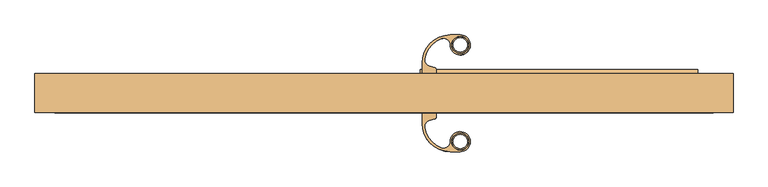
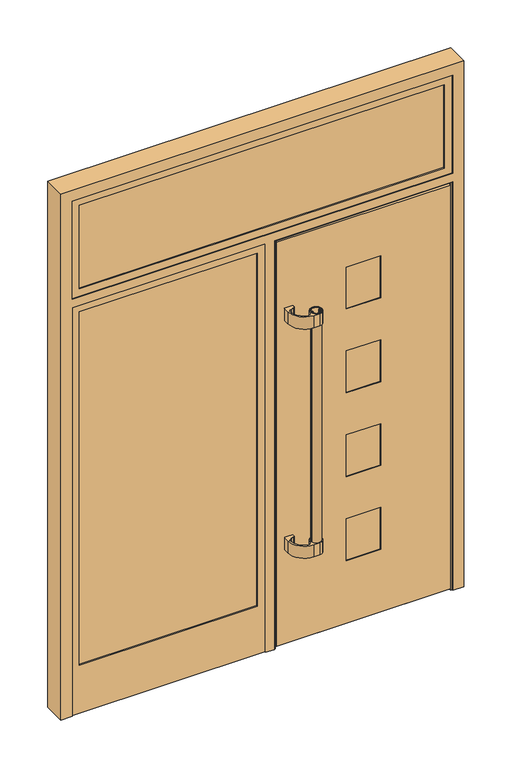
"""IFC4 building model written with IfcOpenShell, lengths in millimetres: door geometry, Jednokrilna vrata s fiksnim poljem i nadsvijetlom : Jednokrilna vrata s fiksnim poljem i nadsvijetlom."""

from ifc_helpers import new_model, si_unit, point, frame, frame_2d, origin, place, context, project, spatial, polyline, circle_curve, trimmed, segment, composite_curve, outline, extrude, faceted_brep, source, transform, mapped, element, save
from ifc_brep_helpers import plane_surface, cylinder_surface, advanced_brep


def door_7b687b59(model_context):
    return source(origin(), model_context, "Body", "SolidModel", [
        extrude(outline(composite_curve([segment(trimmed(circle_curve(frame_2d((172.5992344, 128.9438952)), 19.0), [point((153.5992344, 128.9438952))], [point((191.5992344, 128.9438952))], False, "CARTESIAN"), True, "CONTINUOUS"), segment(trimmed(circle_curve(frame_2d((172.5992344, 128.9438952)), 19.0), [point((191.5992344, 128.9438952))], [point((153.5992344, 128.9438952))], False, "CARTESIAN"), True, "CONTINUOUS")], self_intersect=False), holes=[composite_curve([segment(trimmed(circle_curve(frame_2d((158.1392344, 128.9438952)), 1.55), [point((159.2352499, 130.0399107))], [point((159.2352499, 127.8478797))], True, "CARTESIAN"), True, "CONTINUOUS"), segment(polyline([(159.2352499, 127.8478797), (160.3818511, 127.8478797), (160.3818511, 126.8767304)]), True, "CONTINUOUS"), segment(trimmed(circle_curve(frame_2d((158.1392344, 128.9438952)), 3.05), [point((160.3818511, 126.8767304))], [point((158.1392344, 125.8938952))], False, "CARTESIAN"), True, "CONTINUOUS"), segment(polyline([(158.1392344, 125.8938952), (156.8926275, 125.8938952)]), True, "CONTINUOUS"), segment(trimmed(circle_curve(frame_2d((172.5992344, 128.9438952)), 16.0), [point((156.8926275, 125.8938952))], [point((188.3058413, 125.8938952))], True, "CARTESIAN"), True, "CONTINUOUS"), segment(polyline([(188.3058413, 125.8938952), (187.0992344, 125.8938952)]), True, "CONTINUOUS"), segment(trimmed(circle_curve(frame_2d((187.0992344, 128.9438952)), 3.05), [point((187.0992344, 125.8938952))], [point((184.8566176, 126.8767304))], False, "CARTESIAN"), True, "CONTINUOUS"), segment(polyline([(184.8566176, 126.8767304), (184.8566176, 127.8478797), (186.0032189, 127.8478797)]), True, "CONTINUOUS"), segment(trimmed(circle_curve(frame_2d((187.0992344, 128.9438952)), 1.55), [point((186.0032189, 127.8478797))], [point((186.0032189, 130.0399107))], True, "CARTESIAN"), True, "CONTINUOUS"), segment(polyline([(186.0032189, 130.0399107), (184.8566176, 130.0399107), (184.8566176, 131.0110599)]), True, "CONTINUOUS"), segment(trimmed(circle_curve(frame_2d((187.0992344, 128.9438952)), 3.05), [point((184.8566176, 131.0110599))], [point((187.0992344, 131.9938952))], False, "CARTESIAN"), True, "CONTINUOUS"), segment(polyline([(187.0992344, 131.9938952), (188.3058413, 131.9938952)]), True, "CONTINUOUS"), segment(trimmed(circle_curve(frame_2d((172.5992344, 128.9438952)), 16.0), [point((188.3058413, 131.9938952))], [point((156.8926275, 131.9938952))], True, "CARTESIAN"), True, "CONTINUOUS"), segment(polyline([(156.8926275, 131.9938952), (158.1392344, 131.9938952)]), True, "CONTINUOUS"), segment(trimmed(circle_curve(frame_2d((158.1392344, 128.9438952)), 3.05), [point((158.1392344, 131.9938952))], [point((160.3818511, 131.0110599))], False, "CARTESIAN"), True, "CONTINUOUS"), segment(polyline([(160.3818511, 131.0110599), (160.3818511, 130.0399107), (159.2352499, 130.0399107)]), True, "CONTINUOUS")], self_intersect=False)]), frame((0.0, 0.0, 411.2501761), z_axis=(0.0, 0.0, 1.0), x_axis=(1.0, 0.0, 0.0)), (0.0, 0.0, 1.0), 1000.0),
        extrude(outline(composite_curve([segment(polyline([(91.0523572, 63.4961329), (86.0523572, 63.4961329), (86.0523572, 87.6938952)]), True, "CONTINUOUS"), segment(trimmed(circle_curve(frame_2d((150.0495982, 87.6938952)), 63.997241), [point((86.0523572, 87.6938952))], [point((150.0495982, 151.6911361))], False, "CARTESIAN"), True, "CONTINUOUS"), segment(polyline([(150.0495982, 151.6911361), (172.9535351, 151.6911361)]), True, "CONTINUOUS"), segment(trimmed(circle_curve(frame_2d((172.5350899, 128.7515875)), 22.9433648), [point((172.9535351, 151.6911361))], [point((185.9713489, 147.3490318))], False, "CARTESIAN"), True, "CONTINUOUS"), segment(trimmed(circle_curve(frame_2d((172.6769716, 128.9479692)), 22.7010919), [point((185.9713489, 147.3490318))], [point((187.8219557, 112.0373504))], False, "CARTESIAN"), True, "CONTINUOUS"), segment(trimmed(circle_curve(frame_2d((172.5941758, 129.0404174)), 22.8251959), [point((187.8219557, 112.0373504))], [point((159.2271199, 110.5387586))], False, "CARTESIAN"), True, "CONTINUOUS"), segment(trimmed(circle_curve(frame_2d((172.480867, 128.883584)), 22.631713), [point((159.2271199, 110.5387586))], [point((149.8492344, 128.9438952))], False, "CARTESIAN"), True, "CONTINUOUS"), segment(trimmed(circle_curve(frame_2d((134.8492427, 128.9838687)), 15.0000449), [point((149.8492344, 128.9438952))], [point((129.6813805, 143.0655784))], True, "CARTESIAN"), True, "CONTINUOUS"), segment(trimmed(circle_curve(frame_2d((149.9800199, 87.7545934)), 58.9180773), [point((129.6813805, 143.0655784))], [point((91.9845113, 98.1401991))], True, "CARTESIAN"), True, "CONTINUOUS"), segment(trimmed(circle_curve(frame_2d((106.6993786, 95.2098114)), 15.0038159), [point((91.9845113, 98.1401991))], [point((102.8161053, 80.7172381))], True, "CARTESIAN"), True, "CONTINUOUS"), segment(polyline([(102.8161053, 80.7172381), (114.3464525, 77.6276909)]), True, "CONTINUOUS"), segment(trimmed(circle_curve(frame_2d((113.0523572, 72.7980618)), 5.0), [point((114.3464525, 77.6276909))], [point((118.0523572, 72.7980618))], False, "CARTESIAN"), True, "CONTINUOUS"), segment(polyline([(118.0523572, 72.7980618), (118.0523572, 63.4961329), (91.0523572, 63.4961329)]), True, "CONTINUOUS")], self_intersect=False), holes=[composite_curve([segment(trimmed(circle_curve(frame_2d((172.5992344, 128.9438952)), 19.25), [point((153.3492344, 128.9438952))], [point((191.8492344, 128.9438952))], True, "CARTESIAN"), True, "CONTINUOUS"), segment(trimmed(circle_curve(frame_2d((172.5992344, 128.9438952)), 19.25), [point((191.8492344, 128.9438952))], [point((153.3492344, 128.9438952))], True, "CARTESIAN"), True, "CONTINUOUS")], self_intersect=False)]), frame((0.0, 0.0, 1361.2501761), z_axis=(0.0, 0.0, 1.0), x_axis=(1.0, 0.0, 0.0)), (0.0, 0.0, 1.0), 50.0),
        extrude(outline(composite_curve([segment(polyline([(91.0523572, 63.4961329), (86.0523572, 63.4961329), (86.0523572, 87.6938952)]), True, "CONTINUOUS"), segment(trimmed(circle_curve(frame_2d((150.0495982, 87.6938952)), 63.997241), [point((86.0523572, 87.6938952))], [point((150.0495982, 151.6911361))], False, "CARTESIAN"), True, "CONTINUOUS"), segment(polyline([(150.0495982, 151.6911361), (172.9535351, 151.6911361)]), True, "CONTINUOUS"), segment(trimmed(circle_curve(frame_2d((172.5350899, 128.7515875)), 22.9433648), [point((172.9535351, 151.6911361))], [point((185.9713489, 147.3490318))], False, "CARTESIAN"), True, "CONTINUOUS"), segment(trimmed(circle_curve(frame_2d((172.6769716, 128.9479692)), 22.7010919), [point((185.9713489, 147.3490318))], [point((187.8219557, 112.0373504))], False, "CARTESIAN"), True, "CONTINUOUS"), segment(trimmed(circle_curve(frame_2d((172.5941758, 129.0404174)), 22.8251959), [point((187.8219557, 112.0373504))], [point((159.2271199, 110.5387586))], False, "CARTESIAN"), True, "CONTINUOUS"), segment(trimmed(circle_curve(frame_2d((172.480867, 128.883584)), 22.631713), [point((159.2271199, 110.5387586))], [point((149.8492344, 128.9438952))], False, "CARTESIAN"), True, "CONTINUOUS"), segment(trimmed(circle_curve(frame_2d((134.8492427, 128.9838687)), 15.0000449), [point((149.8492344, 128.9438952))], [point((129.6813805, 143.0655784))], True, "CARTESIAN"), True, "CONTINUOUS"), segment(trimmed(circle_curve(frame_2d((149.9800199, 87.7545934)), 58.9180773), [point((129.6813805, 143.0655784))], [point((91.9845113, 98.1401991))], True, "CARTESIAN"), True, "CONTINUOUS"), segment(trimmed(circle_curve(frame_2d((106.6993786, 95.2098114)), 15.0038159), [point((91.9845113, 98.1401991))], [point((102.8161053, 80.7172381))], True, "CARTESIAN"), True, "CONTINUOUS"), segment(polyline([(102.8161053, 80.7172381), (114.3464525, 77.6276909)]), True, "CONTINUOUS"), segment(trimmed(circle_curve(frame_2d((113.0523572, 72.7980618)), 5.0), [point((114.3464525, 77.6276909))], [point((118.0523572, 72.7980618))], False, "CARTESIAN"), True, "CONTINUOUS"), segment(polyline([(118.0523572, 72.7980618), (118.0523572, 63.4961329), (91.0523572, 63.4961329)]), True, "CONTINUOUS")], self_intersect=False), holes=[composite_curve([segment(trimmed(circle_curve(frame_2d((172.5992344, 128.9438952)), 19.25), [point((153.3492344, 128.9438952))], [point((191.8492344, 128.9438952))], True, "CARTESIAN"), True, "CONTINUOUS"), segment(trimmed(circle_curve(frame_2d((172.5992344, 128.9438952)), 19.25), [point((191.8492344, 128.9438952))], [point((153.3492344, 128.9438952))], True, "CARTESIAN"), True, "CONTINUOUS")], self_intersect=False)]), frame((0.0, 0.0, 411.2501761), z_axis=(0.0, 0.0, 1.0), x_axis=(1.0, 0.0, 0.0)), (0.0, 0.0, 1.0), 50.0),
        extrude(outline(composite_curve([segment(trimmed(circle_curve(frame_2d((172.5992344, -90.4477622)), 19.0), [point((153.5992344, -90.4477622))], [point((191.5992344, -90.4477622))], False, "CARTESIAN"), True, "CONTINUOUS"), segment(trimmed(circle_curve(frame_2d((172.5992344, -90.4477622)), 19.0), [point((191.5992344, -90.4477622))], [point((153.5992344, -90.4477622))], False, "CARTESIAN"), True, "CONTINUOUS")], self_intersect=False), holes=[composite_curve([segment(polyline([(159.2352499, -91.5437777), (160.3818511, -91.5437777), (160.3818511, -92.514927)]), True, "CONTINUOUS"), segment(trimmed(circle_curve(frame_2d((158.1392344, -90.4477622)), 3.05), [point((160.3818511, -92.514927))], [point((158.1392344, -93.4977622))], False, "CARTESIAN"), True, "CONTINUOUS"), segment(polyline([(158.1392344, -93.4977622), (156.8926275, -93.4977622)]), True, "CONTINUOUS"), segment(trimmed(circle_curve(frame_2d((172.5992344, -90.4477622)), 16.0), [point((156.8926275, -93.4977622))], [point((188.3058413, -93.4977622))], True, "CARTESIAN"), True, "CONTINUOUS"), segment(polyline([(188.3058413, -93.4977622), (187.0992344, -93.4977622)]), True, "CONTINUOUS"), segment(trimmed(circle_curve(frame_2d((187.0992344, -90.4477622)), 3.05), [point((187.0992344, -93.4977622))], [point((184.8566176, -92.514927))], False, "CARTESIAN"), True, "CONTINUOUS"), segment(polyline([(184.8566176, -92.514927), (184.8566176, -91.5437777), (186.0032189, -91.5437777)]), True, "CONTINUOUS"), segment(trimmed(circle_curve(frame_2d((187.0992344, -90.4477622)), 1.55), [point((186.0032189, -91.5437777))], [point((186.0032189, -89.3517467))], True, "CARTESIAN"), True, "CONTINUOUS"), segment(polyline([(186.0032189, -89.3517467), (184.8566176, -89.3517467), (184.8566176, -88.3805975)]), True, "CONTINUOUS"), segment(trimmed(circle_curve(frame_2d((187.0992344, -90.4477622)), 3.05), [point((184.8566176, -88.3805975))], [point((187.0992344, -87.3977622))], False, "CARTESIAN"), True, "CONTINUOUS"), segment(polyline([(187.0992344, -87.3977622), (188.3058413, -87.3977622)]), True, "CONTINUOUS"), segment(trimmed(circle_curve(frame_2d((172.5992344, -90.4477622)), 16.0), [point((188.3058413, -87.3977622))], [point((156.8926275, -87.3977622))], True, "CARTESIAN"), True, "CONTINUOUS"), segment(polyline([(156.8926275, -87.3977622), (158.1392344, -87.3977622)]), True, "CONTINUOUS"), segment(trimmed(circle_curve(frame_2d((158.1392344, -90.4477622)), 3.05), [point((158.1392344, -87.3977622))], [point((160.3818511, -88.3805975))], False, "CARTESIAN"), True, "CONTINUOUS"), segment(polyline([(160.3818511, -88.3805975), (160.3818511, -89.3517467), (159.2352499, -89.3517467)]), True, "CONTINUOUS"), segment(trimmed(circle_curve(frame_2d((158.1392344, -90.4477622)), 1.55), [point((159.2352499, -89.3517467))], [point((159.2352499, -91.5437777))], True, "CARTESIAN"), True, "CONTINUOUS")], self_intersect=False)]), frame((0.0, 0.0, 411.2501761), z_axis=(0.0, 0.0, 1.0), x_axis=(1.0, 0.0, 0.0)), (0.0, 0.0, 1.0), 1000.0),
        extrude(outline(composite_curve([segment(polyline([(91.0523572, -25.0), (118.0523572, -25.0), (118.0523572, -34.3019289)]), True, "CONTINUOUS"), segment(trimmed(circle_curve(frame_2d((113.0523572, -34.3019289)), 5.0), [point((118.0523572, -34.3019289))], [point((114.3464525, -39.131558))], False, "CARTESIAN"), True, "CONTINUOUS"), segment(polyline([(114.3464525, -39.131558), (102.8161053, -42.2211052)]), True, "CONTINUOUS"), segment(trimmed(circle_curve(frame_2d((106.6993786, -56.7136785)), 15.0038159), [point((102.8161053, -42.2211052))], [point((91.9845113, -59.6440661))], True, "CARTESIAN"), True, "CONTINUOUS"), segment(trimmed(circle_curve(frame_2d((149.9800199, -49.2584604)), 58.9180773), [point((91.9845113, -59.6440661))], [point((129.6813805, -104.5694455))], True, "CARTESIAN"), True, "CONTINUOUS"), segment(trimmed(circle_curve(frame_2d((134.8492427, -90.4877358)), 15.0000449), [point((129.6813805, -104.5694455))], [point((149.8492344, -90.4477622))], True, "CARTESIAN"), True, "CONTINUOUS"), segment(trimmed(circle_curve(frame_2d((172.480867, -90.3874511)), 22.631713), [point((149.8492344, -90.4477622))], [point((159.2271199, -72.0426256))], False, "CARTESIAN"), True, "CONTINUOUS"), segment(trimmed(circle_curve(frame_2d((172.5941758, -90.5442845)), 22.8251959), [point((159.2271199, -72.0426256))], [point((187.8219557, -73.5412175))], False, "CARTESIAN"), True, "CONTINUOUS"), segment(trimmed(circle_curve(frame_2d((172.6769716, -90.4518363)), 22.7010919), [point((187.8219557, -73.5412175))], [point((185.9713489, -108.8528989))], False, "CARTESIAN"), True, "CONTINUOUS"), segment(trimmed(circle_curve(frame_2d((172.5350899, -90.2554545)), 22.9433648), [point((185.9713489, -108.8528989))], [point((172.9535351, -113.1950032))], False, "CARTESIAN"), True, "CONTINUOUS"), segment(polyline([(172.9535351, -113.1950032), (150.0495982, -113.1950032)]), True, "CONTINUOUS"), segment(trimmed(circle_curve(frame_2d((150.0495982, -49.1977622)), 63.997241), [point((150.0495982, -113.1950032))], [point((86.0523572, -49.1977622))], False, "CARTESIAN"), True, "CONTINUOUS"), segment(polyline([(86.0523572, -49.1977622), (86.0523572, -25.0), (91.0523572, -25.0)]), True, "CONTINUOUS")], self_intersect=False), holes=[composite_curve([segment(trimmed(circle_curve(frame_2d((172.5992344, -90.4477622)), 19.25), [point((153.3492344, -90.4477622))], [point((191.8492344, -90.4477622))], True, "CARTESIAN"), True, "CONTINUOUS"), segment(trimmed(circle_curve(frame_2d((172.5992344, -90.4477622)), 19.25), [point((191.8492344, -90.4477622))], [point((153.3492344, -90.4477622))], True, "CARTESIAN"), True, "CONTINUOUS")], self_intersect=False)]), frame((0.0, 0.0, 1361.2501761), z_axis=(0.0, 0.0, 1.0), x_axis=(1.0, 0.0, 0.0)), (0.0, 0.0, 1.0), 50.0),
        extrude(outline(composite_curve([segment(polyline([(91.0523572, -25.0), (118.0523572, -25.0), (118.0523572, -34.3019289)]), True, "CONTINUOUS"), segment(trimmed(circle_curve(frame_2d((113.0523572, -34.3019289)), 5.0), [point((118.0523572, -34.3019289))], [point((114.3464525, -39.131558))], False, "CARTESIAN"), True, "CONTINUOUS"), segment(polyline([(114.3464525, -39.131558), (102.8161053, -42.2211052)]), True, "CONTINUOUS"), segment(trimmed(circle_curve(frame_2d((106.6993786, -56.7136785)), 15.0038159), [point((102.8161053, -42.2211052))], [point((91.9845113, -59.6440661))], True, "CARTESIAN"), True, "CONTINUOUS"), segment(trimmed(circle_curve(frame_2d((149.9800199, -49.2584604)), 58.9180773), [point((91.9845113, -59.6440661))], [point((129.6813805, -104.5694455))], True, "CARTESIAN"), True, "CONTINUOUS"), segment(trimmed(circle_curve(frame_2d((134.8492427, -90.4877358)), 15.0000449), [point((129.6813805, -104.5694455))], [point((149.8492344, -90.4477622))], True, "CARTESIAN"), True, "CONTINUOUS"), segment(trimmed(circle_curve(frame_2d((172.480867, -90.3874511)), 22.631713), [point((149.8492344, -90.4477622))], [point((159.2271199, -72.0426256))], False, "CARTESIAN"), True, "CONTINUOUS"), segment(trimmed(circle_curve(frame_2d((172.5941758, -90.5442845)), 22.8251959), [point((159.2271199, -72.0426256))], [point((187.8219557, -73.5412175))], False, "CARTESIAN"), True, "CONTINUOUS"), segment(trimmed(circle_curve(frame_2d((172.6769716, -90.4518363)), 22.7010919), [point((187.8219557, -73.5412175))], [point((185.9713489, -108.8528989))], False, "CARTESIAN"), True, "CONTINUOUS"), segment(trimmed(circle_curve(frame_2d((172.5350899, -90.2554545)), 22.9433648), [point((185.9713489, -108.8528989))], [point((172.9535351, -113.1950032))], False, "CARTESIAN"), True, "CONTINUOUS"), segment(polyline([(172.9535351, -113.1950032), (150.0495982, -113.1950032)]), True, "CONTINUOUS"), segment(trimmed(circle_curve(frame_2d((150.0495982, -49.1977622)), 63.997241), [point((150.0495982, -113.1950032))], [point((86.0523572, -49.1977622))], False, "CARTESIAN"), True, "CONTINUOUS"), segment(polyline([(86.0523572, -49.1977622), (86.0523572, -25.0), (91.0523572, -25.0)]), True, "CONTINUOUS")], self_intersect=False), holes=[composite_curve([segment(trimmed(circle_curve(frame_2d((172.5992344, -90.4477622)), 19.25), [point((153.3492344, -90.4477622))], [point((191.8492344, -90.4477622))], True, "CARTESIAN"), True, "CONTINUOUS"), segment(trimmed(circle_curve(frame_2d((172.5992344, -90.4477622)), 19.25), [point((191.8492344, -90.4477622))], [point((153.3492344, -90.4477622))], True, "CARTESIAN"), True, "CONTINUOUS")], self_intersect=False)]), frame((0.0, 0.0, 411.2501761), z_axis=(0.0, 0.0, 1.0), x_axis=(1.0, 0.0, 0.0)), (0.0, 0.0, 1.0), 50.0),
        extrude(outline(polyline([(463.0017189, 59.8961329), (463.0017189, -21.5), (329.2482811, -21.5), (329.2482811, 59.8961329), (463.0017189, 59.8961329)])), frame((0.0, 0.0, 232.9501761), z_axis=(0.0, 0.0, 1.0), x_axis=(1.0, 0.0, 0.0)), (0.0, 0.0, 1.0), 1324.7683548),
        faceted_brep([(710.4978035, 55.0006316, 34.3059674), (710.4978035, 56.2006316, 34.3059674), (710.4978035, 56.2006316, 43.8985869), (710.4978035, 64.4629528, 43.8985869), (710.4978035, 72.0042669, 35.8115176), (710.4978035, 72.0042669, 33.9359674), (710.4978035, 73.5042669, 33.9359674), (710.4978035, 73.5042669, 35.9624995), (710.4978035, 65.0744489, 45.0023726), (710.4978035, 63.4961329, 45.0023726), (710.4978035, 63.4961329, 1668.9979796), (710.4978035, 55.0006316, 1668.9979796), (81.7521965, 55.0006316, 34.3059674), (81.7521965, 56.2006316, 34.3059674), (81.7521965, 56.2006316, 43.8985869), (81.7521965, 64.4629528, 43.8985869), (81.7521965, 72.0042669, 35.8115176), (81.7521965, 72.0042669, 33.9359674), (81.7521965, 73.5042669, 33.9359674), (81.7521965, 73.5042669, 35.9624995), (81.7521965, 65.0744489, 45.0023726), (81.7521965, 63.4961329, 45.0023726), (81.7521965, 63.4961329, 1668.9979796), (463.0017189, 63.4961329, 800.9776761), (329.2482811, 63.4961329, 800.9776761), (329.2482811, 63.4961329, 627.1351761), (463.0017189, 63.4961329, 627.1351761), (463.0017189, 63.4961329, 453.2926761), (329.2482811, 63.4961329, 453.2926761), (329.2482811, 63.4961329, 279.4501761), (463.0017189, 63.4961329, 279.4501761), (463.0017189, 63.4961329, 1496.3476761), (329.2482811, 63.4961329, 1496.3476761), (329.2482811, 63.4961329, 1322.5051761), (463.0017189, 63.4961329, 1322.5051761), (463.0017189, 63.4961329, 1148.6626761), (329.2482811, 63.4961329, 1148.6626761), (329.2482811, 63.4961329, 974.8201761), (463.0017189, 63.4961329, 974.8201761), (724.4976416, 55.0006316, 1682.9978176), (724.4976416, 55.0006316, 31.0025345), (67.7523584, 55.0006316, 31.0025345), (67.7523584, 55.0006316, 1682.9978176), (81.7521965, 55.0006316, 1668.9979796), (655.0017189, -21.5, 1613.501895), (655.0017189, 59.8961329, 1613.501895), (655.0017189, 59.8961329, 100.4984572), (655.0017189, -21.5, 100.4984572), (137.2482811, 59.8961329, 1613.501895), (137.2482811, 59.8961329, 100.4984572), (329.2482811, 59.8961329, 800.9776761), (463.0017189, 59.8961329, 800.9776761), (463.0017189, 59.8961329, 627.1351761), (329.2482811, 59.8961329, 627.1351761), (329.2482811, 59.8961329, 453.2926761), (463.0017189, 59.8961329, 453.2926761), (463.0017189, 59.8961329, 279.4501761), (329.2482811, 59.8961329, 279.4501761), (329.2482811, 59.8961329, 1496.3476761), (463.0017189, 59.8961329, 1496.3476761), (463.0017189, 59.8961329, 1322.5051761), (329.2482811, 59.8961329, 1322.5051761), (329.2482811, 59.8961329, 1148.6626761), (463.0017189, 59.8961329, 1148.6626761), (463.0017189, 59.8961329, 974.8201761), (329.2482811, 59.8961329, 974.8201761), (137.2482811, -21.5, 100.4984572), (137.2482811, -21.5, 1613.501895), (463.0017189, -21.5, 800.9776761), (329.2482811, -21.5, 800.9776761), (329.2482811, -21.5, 627.1351761), (463.0017189, -21.5, 627.1351761), (463.0017189, -21.5, 453.2926761), (329.2482811, -21.5, 453.2926761), (329.2482811, -21.5, 279.4501761), (463.0017189, -21.5, 279.4501761), (463.0017189, -21.5, 1496.3476761), (329.2482811, -21.5, 1496.3476761), (329.2482811, -21.5, 1322.5051761), (463.0017189, -21.5, 1322.5051761), (463.0017189, -21.5, 1148.6626761), (329.2482811, -21.5, 1148.6626761), (329.2482811, -21.5, 974.8201761), (463.0017189, -21.5, 974.8201761), (735.4976428, -13.0033697, 1693.9978188), (735.4976428, -13.0033697, 20.0025333), (56.7523572, -13.0033697, 20.0025333), (56.7523572, -13.0033697, 1693.9978188), (724.4976416, -13.0033697, 31.0025345), (724.4976416, -13.0033697, 1682.9978176), (67.7523584, -13.0033697, 1682.9978176), (67.7523584, -13.0033697, 31.0025345), (735.4976428, -25.0, 1693.9978188), (735.4976428, -25.0, 20.0025333), (56.7523572, -25.0, 1693.9978188), (56.7523572, -25.0, 20.0025333), (329.2482811, -25.0, 800.9776761), (463.0017189, -25.0, 800.9776761), (463.0017189, -25.0, 627.1351761), (329.2482811, -25.0, 627.1351761), (329.2482811, -25.0, 453.2926761), (463.0017189, -25.0, 453.2926761), (463.0017189, -25.0, 279.4501761), (329.2482811, -25.0, 279.4501761), (329.2482811, -25.0, 1496.3476761), (463.0017189, -25.0, 1496.3476761), (463.0017189, -25.0, 1322.5051761), (329.2482811, -25.0, 1322.5051761), (329.2482811, -25.0, 1148.6626761), (463.0017189, -25.0, 1148.6626761), (463.0017189, -25.0, 974.8201761), (329.2482811, -25.0, 974.8201761)], [[[0, 1, 2, 3, 4, 5, 6, 7, 8, 9, 10, 11]], [[12, 13, 1, 0]], [[13, 14, 2, 1]], [[14, 15, 3, 2]], [[15, 16, 4, 3]], [[16, 17, 5, 4]], [[17, 18, 6, 5]], [[18, 19, 7, 6]], [[19, 20, 8, 7]], [[8, 20, 21, 9]], [[10, 9, 21, 22], [23, 24, 25, 26], [27, 28, 29, 30], [31, 32, 33, 34], [35, 36, 37, 38]], [[39, 40, 41, 42], [0, 11, 43, 12]], [[44, 45, 46, 47]], [[46, 45, 48, 49], [50, 51, 52, 53], [54, 55, 56, 57], [58, 59, 60, 61], [62, 63, 64, 65]], [[47, 46, 49, 66]], [[44, 47, 66, 67], [68, 69, 70, 71], [72, 73, 74, 75], [76, 77, 78, 79], [80, 81, 82, 83]], [[84, 85, 86, 87], [88, 89, 90, 91]], [[85, 84, 92, 93]], [[92, 94, 95, 93], [96, 97, 98, 99], [100, 101, 102, 103], [104, 105, 106, 107], [108, 109, 110, 111]], [[86, 85, 93, 95]], [[89, 88, 40, 39]], [[40, 88, 91, 41]], [[66, 49, 48, 67]], [[87, 86, 95, 94]], [[41, 91, 90, 42]], [[43, 22, 21, 20, 19, 18, 17, 16, 15, 14, 13, 12]], [[23, 51, 50, 24]], [[68, 97, 96, 69]], [[51, 23, 26, 52]], [[97, 68, 71, 98]], [[25, 53, 52, 26]], [[70, 99, 98, 71]], [[24, 50, 53, 25]], [[69, 96, 99, 70]], [[27, 55, 54, 28]], [[72, 101, 100, 73]], [[55, 27, 30, 56]], [[101, 72, 75, 102]], [[29, 57, 56, 30]], [[74, 103, 102, 75]], [[28, 54, 57, 29]], [[73, 100, 103, 74]], [[43, 11, 10, 22]], [[45, 44, 67, 48]], [[84, 87, 94, 92]], [[89, 39, 42, 90]], [[31, 59, 58, 32]], [[76, 105, 104, 77]], [[32, 58, 61, 33]], [[77, 104, 107, 78]], [[33, 61, 60, 34]], [[78, 107, 106, 79]], [[59, 31, 34, 60]], [[105, 76, 79, 106]], [[35, 63, 62, 36]], [[80, 109, 108, 81]], [[36, 62, 65, 37]], [[81, 108, 111, 82]], [[37, 65, 64, 38]], [[82, 111, 110, 83]], [[63, 35, 38, 64]], [[109, 80, 83, 110]]]),
        extrude(outline(polyline([(11.749824, -16.0038177), (-745.499939, -16.0038177), (-745.499939, 55.9961823), (11.749824, 55.9961823), (11.749824, -16.0038177)])), frame((0.0, 0.0, 205.989811), z_axis=(0.0, 0.0, 1.0), x_axis=(1.0, 0.0, 0.0)), (0.0, 0.0, 1.0), 1510.0103651),
        advanced_brep(
        [(790.0, 63.4999687, 10.0), (-18.25, 63.4999687, 10.0), (-18.25, 63.4999687, 1674.0003523), (-715.5, 63.4999687, 1674.0001873), (-715.5, 63.4999687, 10.0), (-790.0, 63.4999687, 10.0), (-790.0, 63.4999687, 2190.0), (790.0, 63.4999687, 2190.0), (76.7496477, 63.4999687, 1674.0003523), (76.7496477, 63.4999687, 25.6983046), (715.5, 63.4999687, 25.6983046), (715.5, 63.4999687, 1674.0003523), (715.5, 63.4999687, 2115.5), (-715.5, 63.4999687, 2115.5), (-715.5, 63.4999687, 1768.999835), (715.5, 63.4999687, 1768.9999918), (-790.0, -25.0, 2190.0), (-790.0, -25.0, 10.0), (46.7498239, -21.5038326, 10.0), (46.7498239, -25.0, 10.0), (11.749824, -25.0, 10.0), (11.749824, -21.5038639, 10.0), (-745.499939, -21.5026649, 10.0), (-745.499939, -25.0, 10.0), (-715.5, 62.9999687, 10.0), (-18.25, 62.9999687, 10.0), (790.0, -25.0, 10.0), (745.499939, -25.0, 10.0), (745.499939, -21.5038326, 10.0), (740.499939, -21.5038326, 10.0), (740.499939, -13.2027997, 10.0), (730.9940778, -13.2027997, 10.0), (730.9940778, -12.9953071, 10.0), (51.7498239, -12.9392706, 10.0), (51.7498239, -21.5038326, 10.0), (46.7498239, -25.0, 1704.0001761), (745.499939, -25.0, 1704.0001712), (790.0, -25.0, 2190.0), (-745.499939, -25.0, 1704.0000077), (11.749824, -25.0, 1704.0000908), (-745.499939, -25.0, 2145.499939), (745.499939, -25.0, 2145.499939), (745.499939, -25.0, 1739.000176), (-745.499939, -25.0, 1739.0000077), (-18.25, 62.9999687, 209.9896504), (-715.5, 62.9999687, 209.9896504), (-18.25, 55.9961823, 209.9896504), (-18.25, 55.9961361, 1674.0001791), (-715.5, 55.9961361, 1674.0003523), (-715.5, 55.9961823, 209.9896504), (-715.5, 55.9961361, 2115.5), (-715.5, 55.9961361, 1769.0), (46.7498239, -21.5038326, 1704.0000946), (11.749824, -21.5042582, 1704.0001761), (51.7498239, -21.5025944, 1699.0001761), (740.499939, -21.5025944, 1699.0001761), (745.499939, -21.5025944, 1704.0001712), (-745.499939, -21.5025944, 1704.0000077), (-18.250176, -21.5025944, 1674.0000029), (-18.250176, -21.5025944, 209.9898263), (-715.499939, -21.5025944, 209.9898263), (-715.499939, -21.5025944, 1674.0000029), (745.499939, -21.5025944, 2145.499939), (-745.499939, -21.5025944, 2145.499939), (-745.499939, -21.5025944, 1739.0000077), (745.499939, -21.5025944, 1739.0001711), (-715.499939, -21.5025944, 2115.499939), (715.499939, -21.5025944, 2115.499939), (715.499939, -21.5025944, 1769.000176), (-715.499939, -21.5025944, 1769.000011), (740.499939, -13.2027997, 1699.0001761), (730.9940778, -13.2027997, 1699.0001761), (730.9940778, -12.9392706, 1699.0001761), (730.9940778, -12.9392706, 1689.5001304), (730.9940778, 55.0006899, 1689.5001304), (730.9940778, 55.0044286, 27.2306579), (730.9940778, 48.6457156, 28.3775885), (730.9940778, 28.1552854, 30.02273), (730.9940778, 26.3416807, 29.5983726), (730.9940778, 19.5923322, 25.5020091), (730.9940778, -12.9953071, 25.5020091), (61.2498696, -12.9392706, 25.5020091), (61.2498696, -12.9392706, 1689.5001304), (51.7498239, -12.9392706, 1699.0001761), (-18.250176, -16.0038639, 1674.0000029), (-18.250176, -16.0038177, 209.9898263), (-715.499939, -16.0038177, 209.9898263), (-715.499939, -16.0038639, 1674.0000029), (-715.499939, -16.0038639, 2115.499939), (-715.499939, -16.0038639, 1769.000176), (-2.25, -16.0038177, 1690.0), (-2.25, -16.0038177, 193.989811), (-731.499939, -16.0038177, 193.989811), (-731.499939, -16.0038177, 1690.0), (-731.499939, -16.0038177, 2131.499939), (731.499939, -16.0038177, 2131.499939), (731.499939, -16.0038177, 1752.9999991), (-731.499939, -16.0038177, 1752.999976), (715.499939, -16.0038177, 2115.499939), (715.499939, -16.0038177, 1769.0001678), (-2.25, 55.9961361, 193.989811), (-2.25, 55.9961361, 1690.0), (-731.499939, 55.9961823, 193.989811), (-731.499939, 55.9961823, 1690.0), (-731.499939, 55.9961361, 2131.499939), (-731.499939, 55.9961361, 1753.0), (731.499939, 55.9961823, 2131.499939), (731.499939, 55.9961823, 1752.9999991), (715.5, 55.9961823, 2115.5), (715.5, 55.9961823, 1769.0), (76.7496477, 55.0006899, 1674.0003523), (76.7496477, 55.0006899, 27.2313323), (61.2498696, 55.0006899, 27.2313323), (61.2498696, 48.6457156, 28.3775885), (715.5, 55.0006899, 27.2313323), (715.5, 55.0006899, 1674.0003523), (61.2498696, 55.0006899, 1689.5001304), (61.2498696, 19.5923322, 25.5020091), (61.2498696, 26.3416807, 29.5983726), (61.2498696, 28.1552854, 30.02273)],
        [
            (0, 1),
            (1, 2),
            (2, 3),
            (3, 4),
            (4, 5),
            (5, 6),
            (6, 7),
            (7, 0),
            (8, 9),
            (9, 10),
            (10, 11),
            (11, 8),
            (12, 13),
            (13, 14),
            (14, 15),
            (15, 12),
            (16, 6),
            (5, 17),
            (17, 16),
            (18, 19),
            (19, 20),
            (20, 21),
            (21, 22),
            (22, 23),
            (23, 17),
            (4, 24),
            (24, 25),
            (25, 1),
            (0, 26),
            (26, 27),
            (27, 28),
            (28, 29),
            (29, 30),
            (30, 31),
            (31, 32),
            (32, 33),
            (33, 34),
            (34, 18),
            (19, 35),
            (35, 36),
            (36, 27),
            (26, 37),
            (37, 16),
            (23, 38),
            (38, 39),
            (39, 20),
            (40, 41),
            (41, 42),
            (42, 43),
            (43, 40),
            (44, 25),
            (24, 45),
            (45, 44),
            (44, 46),
            (46, 47),
            (47, 2),
            (3, 48),
            (48, 49),
            (49, 45),
            (13, 50),
            (50, 51),
            (51, 14),
            (49, 46),
            (18, 52),
            (52, 35),
            (39, 53),
            (53, 21),
            (34, 54),
            (54, 55),
            (55, 29),
            (28, 56),
            (56, 52),
            (53, 57),
            (57, 22),
            (58, 59),
            (59, 60),
            (60, 61),
            (61, 58),
            (62, 63),
            (63, 64),
            (64, 65),
            (65, 62),
            (66, 67),
            (67, 68),
            (68, 69),
            (69, 66),
            (57, 38),
            (63, 40),
            (43, 64),
            (7, 37),
            (36, 56),
            (55, 70),
            (70, 30),
            (70, 71),
            (71, 31),
            (71, 72),
            (72, 73),
            (73, 74),
            (74, 75),
            (75, 76),
            (76, 77),
            (77, 78, circle_curve(frame((730.9940778, 27.898211, 27.0337648), z_axis=(1.0, 0.0, 0.0), x_axis=(0.0, -0.5188434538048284, 0.8548692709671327)), 3.0)),
            (78, 79),
            (79, 80),
            (80, 32),
            (80, 81),
            (81, 82),
            (82, 73),
            (72, 83),
            (83, 33),
            (83, 54),
            (58, 84),
            (84, 85),
            (85, 59),
            (85, 86),
            (86, 60),
            (86, 87),
            (87, 61),
            (88, 66),
            (69, 89),
            (89, 88),
            (90, 91),
            (91, 92),
            (92, 93),
            (93, 90),
            (84, 87),
            (94, 95),
            (95, 96),
            (96, 97),
            (97, 94),
            (98, 88),
            (89, 99),
            (99, 98),
            (100, 91),
            (90, 101),
            (101, 100),
            (100, 102),
            (102, 92),
            (102, 103),
            (103, 93),
            (104, 94),
            (97, 105),
            (105, 104),
            (101, 103),
            (48, 47),
            (106, 104),
            (105, 107),
            (107, 106),
            (50, 108),
            (108, 109),
            (109, 51),
            (8, 110),
            (110, 111),
            (111, 9),
            (111, 112),
            (112, 113),
            (113, 76),
            (75, 114),
            (114, 10),
            (115, 11),
            (114, 115),
            (110, 115),
            (74, 116),
            (116, 112),
            (116, 82),
            (81, 117),
            (117, 118),
            (118, 119, circle_curve(frame((61.2498696, 27.898211, 27.0337648), z_axis=(-1.0, 0.0, 0.0), x_axis=(0.0, -0.5188434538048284, 0.8548692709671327)), 3.0)),
            (119, 113),
            (79, 117),
            (78, 118),
            (77, 119),
            (42, 65),
            (68, 99),
            (96, 107),
            (109, 15),
            (106, 95),
            (98, 67),
            (62, 41),
            (12, 108),
        ],
        [
            plane_surface(frame((-2.25, 63.4999687, 1769.0), z_axis=(0.0, 1.0, 0.0), x_axis=(1.0, 0.0, 0.0))),
            plane_surface(frame((-790.0, 63.4999687, 10.0), z_axis=(-1.0, 0.0, 0.0), x_axis=(0.0, -1.0, 0.0))),
            plane_surface(frame((-790.0, 62.9999687, 10.0), z_axis=(0.0, 0.0, -1.0), x_axis=(1.0, 0.0, 0.0))),
            plane_surface(frame((-2.25, -25.0, 1704.0001761), z_axis=(0.0, -1.0, 0.0), x_axis=(1.0, 0.0, 0.0))),
            plane_surface(frame((-790.0, 62.9999687, 209.9896504), z_axis=(0.0, 1.0, 0.0), x_axis=(1.0, 0.0, 0.0))),
            plane_surface(frame((-18.25, 63.4999687, 1704.0001761), z_axis=(-1.0, 0.0, 0.0), x_axis=(0.0, 0.0, -1.0))),
            plane_surface(frame((-715.5, 63.4999687, 10.0), z_axis=(1.0, 0.0, 0.0), x_axis=(0.0, 0.0, 1.0))),
            plane_surface(frame((-790.0, 61.0498488, 209.9896504), z_axis=(0.0, 0.0, 1.0), x_axis=(1.0, 0.0, 0.0))),
            plane_surface(frame((46.7498239, -25.0, 1704.0001761), z_axis=(1.0, 0.0, 0.0), x_axis=(0.0, 0.0, -1.0))),
            plane_surface(frame((11.749824, -21.5038639, 1704.0001761), z_axis=(-1.0, 0.0, 0.0), x_axis=(0.0, 0.0, -1.0))),
            plane_surface(frame((-790.0, -21.5025944, 10.0), z_axis=(0.0, -1.0, 0.0), x_axis=(1.0, 0.0, 0.0))),
            plane_surface(frame((-745.499939, -21.5038326, 10.0), z_axis=(1.0, 0.0, 0.0), x_axis=(0.0, 0.0, 1.0))),
            plane_surface(frame((790.0, -25.0, 1690.0), z_axis=(1.0, 0.0, 0.0), x_axis=(0.0, 1.0, 0.0))),
            plane_surface(frame((745.499939, -21.5038326, 1704.0001761), z_axis=(-1.0, 0.0, 0.0), x_axis=(0.0, 0.0, -1.0))),
            plane_surface(frame((740.499939, -13.2027997, 1704.0001761), z_axis=(-1.0, 0.0, 0.0), x_axis=(0.0, 0.0, -1.0))),
            plane_surface(frame((730.9940778, -13.2027997, 1704.0001761), z_axis=(0.0, -1.0, 0.0), x_axis=(0.0, 0.0, -1.0))),
            plane_surface(frame((730.9940778, 55.0044673, 1704.0001761), z_axis=(-1.0, 0.0, 0.0), x_axis=(0.0, 0.0, -1.0))),
            plane_surface(frame((-2.25, -12.9392706, 1689.5001304), z_axis=(0.0, -1.0, 0.0), x_axis=(1.0, 0.0, 0.0))),
            plane_surface(frame((51.7498239, -21.5038326, 1704.0001761), z_axis=(1.0, 0.0, 0.0), x_axis=(0.0, 0.0, -1.0))),
            plane_surface(frame((-18.250176, -16.0038639, 1704.0001761), z_axis=(-1.0, 0.0, 0.0), x_axis=(0.0, 0.0, -1.0))),
            plane_surface(frame((-790.0, -21.5025944, 209.9898263), z_axis=(0.0, 0.0, 1.0), x_axis=(1.0, 0.0, 0.0))),
            plane_surface(frame((-715.499939, -16.0038639, 10.0), z_axis=(1.0, 0.0, 0.0), x_axis=(0.0, 0.0, 1.0))),
            plane_surface(frame((-790.0, -16.0038177, 209.9898263), z_axis=(0.0, 1.0, 0.0), x_axis=(1.0, 0.0, 0.0))),
            plane_surface(frame((-2.25, -25.0, 1690.0), z_axis=(-1.0, 0.0, 0.0), x_axis=(0.0, 1.0, 0.0))),
            plane_surface(frame((-790.0, -16.0038177, 193.989811), z_axis=(0.0, 0.0, 1.0), x_axis=(1.0, 0.0, 0.0))),
            plane_surface(frame((-731.499939, 55.9961361, 10.0), z_axis=(1.0, 0.0, 0.0), x_axis=(0.0, 0.0, 1.0))),
            plane_surface(frame((-790.0, 55.9961823, 193.989811), z_axis=(0.0, -1.0, 0.0), x_axis=(1.0, 0.0, 0.0))),
            plane_surface(frame((76.7496477, 55.0006899, 1704.0001761), z_axis=(1.0, 0.0, 0.0), x_axis=(0.0, 0.0, -1.0))),
            plane_surface(frame((46.7498239, 48.6457156, 28.3775885), z_axis=(0.0, 0.17750711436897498, 0.9841195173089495), x_axis=(1.0, 0.0, 0.0))),
            plane_surface(frame((715.5, 63.4999687, 1704.0001761), z_axis=(-1.0, 0.0, 0.0), x_axis=(0.0, 0.0, -1.0))),
            plane_surface(frame((-2.25, 55.0006899, 1674.0003523), z_axis=(0.0, -1.0, 0.0), x_axis=(1.0, 0.0, 0.0))),
            plane_surface(frame((61.2498696, -12.9392706, 1704.0001761), z_axis=(1.0, 0.0, 0.0), x_axis=(0.0, 0.0, -1.0))),
            plane_surface(frame((46.7498239, -12.9953071, 25.5020091), z_axis=(0.0, 0.0, 1.0), x_axis=(1.0, 0.0, 0.0))),
            plane_surface(frame((46.7498239, 19.5923322, 25.5020091), z_axis=(0.0, -0.5188434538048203, 0.8548692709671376), x_axis=(1.0, 0.0, 0.0))),
            cylinder_surface(frame((46.7498239, 27.898211, 27.0337648), z_axis=(-1.0, 0.0, 0.0), x_axis=(0.0, -0.5188434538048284, 0.8548692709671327)), 3.0),
            plane_surface(frame((46.7498239, 28.1552854, 30.02273), z_axis=(0.0, 0.08003075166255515, 0.9967923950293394), x_axis=(1.0, 0.0, 0.0))),
            plane_surface(frame((-2.25, -21.5038326, 1704.0001761), z_axis=(0.0, 0.0, -1.0), x_axis=(1.0, 0.0, 0.0))),
            plane_surface(frame((-2.25, -25.0, 1739.000176), z_axis=(0.0, 0.0, 1.0), x_axis=(1.0, 0.0, 0.0))),
            plane_surface(frame((-2.25, -21.5038639, 1769.000176), z_axis=(0.0, 0.0, 1.0), x_axis=(1.0, 0.0, 0.0))),
            plane_surface(frame((-2.25, -16.0038639, 1753.0), z_axis=(0.0, 0.0, 1.0), x_axis=(1.0, 0.0, 0.0))),
            plane_surface(frame((-2.25, 55.9961361, 1769.0), z_axis=(0.0, 0.0, 1.0), x_axis=(1.0, 0.0, 0.0))),
            plane_surface(frame((-2.25, 63.4999687, 1674.0003523), z_axis=(0.0, 0.0, -1.0), x_axis=(1.0, 0.0, 0.0))),
            plane_surface(frame((-2.25, 55.0006899, 1689.5001304), z_axis=(0.0, 0.0, -1.0), x_axis=(1.0, 0.0, 0.0))),
            plane_surface(frame((-2.25, -12.9392706, 1699.0001761), z_axis=(0.0, 0.0, -1.0), x_axis=(1.0, 0.0, 0.0))),
            plane_surface(frame((-790.0, 55.9961361, 1690.0), z_axis=(0.0, 0.0, -1.0), x_axis=(1.0, 0.0, 0.0))),
            plane_surface(frame((-790.0, -16.0038639, 1674.0000029), z_axis=(0.0, 0.0, -1.0), x_axis=(1.0, 0.0, 0.0))),
            plane_surface(frame((-731.499939, 55.9961361, 2131.499939), z_axis=(0.0, 0.0, -1.0), x_axis=(1.0, 0.0, 0.0))),
            plane_surface(frame((-715.499939, -16.0038639, 2115.499939), z_axis=(0.0, 0.0, -1.0), x_axis=(1.0, 0.0, 0.0))),
            plane_surface(frame((-745.499939, -21.5038326, 2145.499939), z_axis=(0.0, 0.0, -1.0), x_axis=(1.0, 0.0, 0.0))),
            plane_surface(frame((-790.0, -25.0, 2190.0), z_axis=(0.0, 0.0, 1.0), x_axis=(1.0, 0.0, 0.0))),
            plane_surface(frame((-715.5, 63.4999687, 2115.5), z_axis=(0.0, 0.0, -1.0), x_axis=(1.0, 0.0, 0.0))),
            plane_surface(frame((731.499939, 55.9961361, 2131.499939), z_axis=(-1.0, 0.0, 0.0), x_axis=(0.0, 0.0, -1.0))),
            plane_surface(frame((715.499939, -16.0038639, 2115.499939), z_axis=(-1.0, 0.0, 0.0), x_axis=(0.0, 0.0, -1.0))),
            plane_surface(frame((745.499939, -21.5038326, 2145.499939), z_axis=(-1.0, 0.0, 0.0), x_axis=(0.0, 0.0, -1.0))),
            plane_surface(frame((715.5, 63.4999687, 2115.5), z_axis=(-1.0, 0.0, 0.0), x_axis=(0.0, 0.0, -1.0))),
        ],
        [
            (0, [[1, 2, 3, 4, 5, 6, 7, 8], [9, 10, 11, 12], [13, 14, 15, 16]]),
            (1, [[17, -6, 18, 19]]),
            (2, [[20, 21, 22, 23, 24, 25, -18, -5, 26, 27, 28, -1, 29, 30, 31, 32, 33, 34, 35, 36, 37, 38]]),
            (3, [[-21, 39, 40, 41, -30, 42, 43, -19, -25, 44, 45, 46], [47, 48, 49, 50]]),
            (4, [[51, -27, 52, 53]]),
            (5, [[-28, -51, 54, 55, 56, -2]]),
            (6, [[-26, -4, 57, 58, 59, -52]]),
            (6, [[60, 61, 62, -14]]),
            (7, [[-54, -53, -59, 63]]),
            (8, [[-20, 64, 65, -39]]),
            (9, [[-22, -46, 66, 67]]),
            (10, [[-38, 68, 69, 70, -32, 71, 72, -64]]),
            (10, [[-67, 73, 74, -23], [75, 76, 77, 78]]),
            (10, [[79, 80, 81, 82], [83, 84, 85, 86]]),
            (11, [[-24, -74, 87, -44]]),
            (11, [[88, -50, 89, -80]]),
            (12, [[-8, 90, -42, -29]]),
            (13, [[-31, -41, 91, -71]]),
            (14, [[-33, -70, 92, 93]]),
            (15, [[-34, -93, 94, 95]]),
            (16, [[-95, 96, 97, 98, 99, 100, 101, 102, 103, 104, 105, -35]]),
            (17, [[-36, -105, 106, 107, 108, -97, 109, 110]]),
            (18, [[-37, -110, 111, -68]]),
            (19, [[-75, 112, 113, 114]]),
            (20, [[-114, 115, 116, -76]]),
            (21, [[-77, -116, 117, 118]]),
            (21, [[119, -86, 120, 121]]),
            (22, [[122, 123, 124, 125], [-113, 126, -117, -115]]),
            (22, [[127, 128, 129, 130], [131, -121, 132, 133]]),
            (23, [[134, -122, 135, 136]]),
            (24, [[-134, 137, 138, -123]]),
            (25, [[-138, 139, 140, -124]]),
            (25, [[141, -130, 142, 143]]),
            (26, [[-136, 144, -139, -137], [-55, -63, -58, 145]]),
            (26, [[146, -143, 147, 148], [149, 150, 151, -61]]),
            (27, [[152, 153, 154, -9]]),
            (28, [[-10, -154, 155, 156, 157, -100, 158, 159]]),
            (29, [[160, -11, -159, 161]]),
            (30, [[162, -161, -158, -99, 163, 164, -155, -153]]),
            (31, [[165, -107, 166, 167, 168, 169, -156, -164]]),
            (32, [[170, -166, -106, -104]]),
            (33, [[171, -167, -170, -103]]),
            (34, [[-171, -102, 172, -168]]),
            (35, [[-157, -169, -172, -101]]),
            (36, [[-66, -45, -87, -73]]),
            (36, [[-65, -72, -91, -40]]),
            (37, [[-49, 173, -81, -89]]),
            (38, [[-85, 174, -132, -120]]),
            (39, [[-142, -129, 175, -147]]),
            (40, [[-151, 176, -15, -62]]),
            (41, [[-152, -12, -160, -162]]),
            (41, [[-56, -145, -57, -3]]),
            (42, [[-165, -163, -98, -108]]),
            (43, [[-111, -109, -96, -94, -92, -69]]),
            (44, [[-135, -125, -140, -144]]),
            (45, [[-112, -78, -118, -126]]),
            (46, [[-146, 177, -127, -141]]),
            (47, [[-131, 178, -83, -119]]),
            (48, [[-79, 179, -47, -88]]),
            (49, [[-43, -90, -7, -17]]),
            (50, [[-149, -60, -13, 180]]),
            (51, [[-177, -148, -175, -128]]),
            (52, [[-178, -133, -174, -84]]),
            (53, [[-179, -82, -173, -48]]),
            (54, [[-180, -16, -176, -150]]),
        ],
    ),
        extrude(outline(polyline([(745.499939, -16.0038177), (-745.499939, -16.0038177), (-745.499939, 55.9961823), (745.499939, 55.9961823), (745.499939, -16.0038177)])), frame((0.0, 0.0, 1739.0000123), z_axis=(0.0, 0.0, 1.0), x_axis=(1.0, 0.0, 0.0)), (0.0, 0.0, 1.0), 406.4999267),
    ])


if __name__ == "__main__":
    model = new_model("IFC4")
    model_context = context("Model", 3, world=origin())
    ifc_project = project(units=[si_unit("LENGTHUNIT", "METRE", prefix="MILLI")], contexts=[model_context])
    site = spatial("IfcSite", under=ifc_project)
    building = spatial("IfcBuilding", under=site)
    placement = place(None, origin())
    door_shape = door_7b687b59(model_context)
    element("IfcDoor", 1, ObjectType="Jednokrilna vrata s fiksnim poljem i nadsvijetlom : Jednokrilna vrata s fiksnim poljem i nadsvijetlom", at=placement, inside=building, context=model_context, shape_type="MappedRepresentation", body=[
        mapped(door_shape, transform((0.0, 0.0, 0.0), x_axis=(1.0, 0.0, 0.0), y_axis=(0.0, 1.0, 0.0), z_axis=(0.0, 0.0, 1.0))),
    ])
    save(model, "model.ifc")
